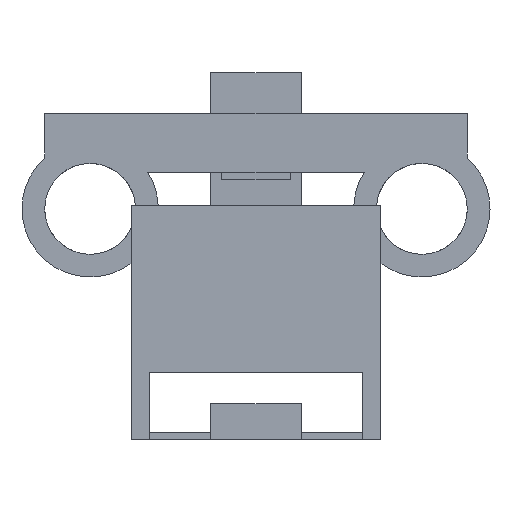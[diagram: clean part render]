
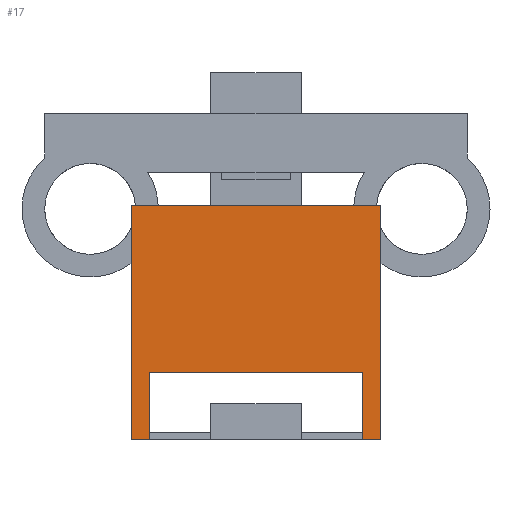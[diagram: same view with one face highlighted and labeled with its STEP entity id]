
A CAD part, left-side view. The second image highlights one B-rep face of the part: STEP entity #17.
In plain terms, the highlighted planar face has unit normal (-1, 0, 0).
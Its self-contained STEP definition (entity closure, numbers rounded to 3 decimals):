
#17 = ADVANCED_FACE('',(#18),#32,.F.);
#18 = FACE_BOUND('',#19,.F.);
#19 = EDGE_LOOP('',(#20,#55,#83,#111,#139,#167,#195,#218));
#20 = ORIENTED_EDGE('',*,*,#21,.F.);
#21 = EDGE_CURVE('',#22,#24,#26,.T.);
#22 = VERTEX_POINT('',#23);
#23 = CARTESIAN_POINT('',(32.5,-0.5,4.85));
#24 = VERTEX_POINT('',#25);
#25 = CARTESIAN_POINT('',(32.5,10.5,4.85));
#26 = SURFACE_CURVE('',#27,(#31,#43),.PCURVE_S1.);
#27 = LINE('',#28,#29);
#28 = CARTESIAN_POINT('',(32.5,-0.5,4.85));
#29 = VECTOR('',#30,1.);
#30 = DIRECTION('',(0.,1.,0.));
#31 = PCURVE('',#32,#37);
#32 = PLANE('',#33);
#33 = AXIS2_PLACEMENT_3D('',#34,#35,#36);
#34 = CARTESIAN_POINT('',(32.5,-0.5,-5.45));
#35 = DIRECTION('',(1.,0.,0.));
#36 = DIRECTION('',(0.,0.,1.));
#37 = DEFINITIONAL_REPRESENTATION('',(#38),#42);
#38 = LINE('',#39,#40);
#39 = CARTESIAN_POINT('',(10.3,0.));
#40 = VECTOR('',#41,1.);
#41 = DIRECTION('',(0.,-1.));
#42 = ( GEOMETRIC_REPRESENTATION_CONTEXT(2) 
PARAMETRIC_REPRESENTATION_CONTEXT() REPRESENTATION_CONTEXT('2D SPACE',''
  ) );
#43 = PCURVE('',#44,#49);
#44 = PLANE('',#45);
#45 = AXIS2_PLACEMENT_3D('',#46,#47,#48);
#46 = CARTESIAN_POINT('',(32.5,-0.5,4.85));
#47 = DIRECTION('',(0.,0.,1.));
#48 = DIRECTION('',(1.,0.,-0.));
#49 = DEFINITIONAL_REPRESENTATION('',(#50),#54);
#50 = LINE('',#51,#52);
#51 = CARTESIAN_POINT('',(0.,0.));
#52 = VECTOR('',#53,1.);
#53 = DIRECTION('',(0.,1.));
#54 = ( GEOMETRIC_REPRESENTATION_CONTEXT(2) 
PARAMETRIC_REPRESENTATION_CONTEXT() REPRESENTATION_CONTEXT('2D SPACE',''
  ) );
#55 = ORIENTED_EDGE('',*,*,#56,.F.);
#56 = EDGE_CURVE('',#57,#22,#59,.T.);
#57 = VERTEX_POINT('',#58);
#58 = CARTESIAN_POINT('',(32.5,-0.5,-5.45));
#59 = SURFACE_CURVE('',#60,(#64,#71),.PCURVE_S1.);
#60 = LINE('',#61,#62);
#61 = CARTESIAN_POINT('',(32.5,-0.5,-5.45));
#62 = VECTOR('',#63,1.);
#63 = DIRECTION('',(0.,0.,1.));
#64 = PCURVE('',#32,#65);
#65 = DEFINITIONAL_REPRESENTATION('',(#66),#70);
#66 = LINE('',#67,#68);
#67 = CARTESIAN_POINT('',(0.,0.));
#68 = VECTOR('',#69,1.);
#69 = DIRECTION('',(1.,0.));
#70 = ( GEOMETRIC_REPRESENTATION_CONTEXT(2) 
PARAMETRIC_REPRESENTATION_CONTEXT() REPRESENTATION_CONTEXT('2D SPACE',''
  ) );
#71 = PCURVE('',#72,#77);
#72 = PLANE('',#73);
#73 = AXIS2_PLACEMENT_3D('',#74,#75,#76);
#74 = CARTESIAN_POINT('',(32.5,-0.5,-5.45));
#75 = DIRECTION('',(0.,1.,0.));
#76 = DIRECTION('',(0.,-0.,1.));
#77 = DEFINITIONAL_REPRESENTATION('',(#78),#82);
#78 = LINE('',#79,#80);
#79 = CARTESIAN_POINT('',(0.,0.));
#80 = VECTOR('',#81,1.);
#81 = DIRECTION('',(1.,0.));
#82 = ( GEOMETRIC_REPRESENTATION_CONTEXT(2) 
PARAMETRIC_REPRESENTATION_CONTEXT() REPRESENTATION_CONTEXT('2D SPACE',''
  ) );
#83 = ORIENTED_EDGE('',*,*,#84,.T.);
#84 = EDGE_CURVE('',#57,#85,#87,.T.);
#85 = VERTEX_POINT('',#86);
#86 = CARTESIAN_POINT('',(32.5,0.3,-5.45));
#87 = SURFACE_CURVE('',#88,(#92,#99),.PCURVE_S1.);
#88 = LINE('',#89,#90);
#89 = CARTESIAN_POINT('',(32.5,-0.5,-5.45));
#90 = VECTOR('',#91,1.);
#91 = DIRECTION('',(0.,1.,0.));
#92 = PCURVE('',#32,#93);
#93 = DEFINITIONAL_REPRESENTATION('',(#94),#98);
#94 = LINE('',#95,#96);
#95 = CARTESIAN_POINT('',(0.,0.));
#96 = VECTOR('',#97,1.);
#97 = DIRECTION('',(0.,-1.));
#98 = ( GEOMETRIC_REPRESENTATION_CONTEXT(2) 
PARAMETRIC_REPRESENTATION_CONTEXT() REPRESENTATION_CONTEXT('2D SPACE',''
  ) );
#99 = PCURVE('',#100,#105);
#100 = PLANE('',#101);
#101 = AXIS2_PLACEMENT_3D('',#102,#103,#104);
#102 = CARTESIAN_POINT('',(32.5,-0.5,-5.45));
#103 = DIRECTION('',(0.,0.,1.));
#104 = DIRECTION('',(1.,0.,-0.));
#105 = DEFINITIONAL_REPRESENTATION('',(#106),#110);
#106 = LINE('',#107,#108);
#107 = CARTESIAN_POINT('',(0.,0.));
#108 = VECTOR('',#109,1.);
#109 = DIRECTION('',(0.,1.));
#110 = ( GEOMETRIC_REPRESENTATION_CONTEXT(2) 
PARAMETRIC_REPRESENTATION_CONTEXT() REPRESENTATION_CONTEXT('2D SPACE',''
  ) );
#111 = ORIENTED_EDGE('',*,*,#112,.T.);
#112 = EDGE_CURVE('',#85,#113,#115,.T.);
#113 = VERTEX_POINT('',#114);
#114 = CARTESIAN_POINT('',(32.5,0.3,-2.5));
#115 = SURFACE_CURVE('',#116,(#120,#127),.PCURVE_S1.);
#116 = LINE('',#117,#118);
#117 = CARTESIAN_POINT('',(32.5,0.3,-6.475));
#118 = VECTOR('',#119,1.);
#119 = DIRECTION('',(0.,0.,1.));
#120 = PCURVE('',#32,#121);
#121 = DEFINITIONAL_REPRESENTATION('',(#122),#126);
#122 = LINE('',#123,#124);
#123 = CARTESIAN_POINT('',(-1.025,-0.8));
#124 = VECTOR('',#125,1.);
#125 = DIRECTION('',(1.,0.));
#126 = ( GEOMETRIC_REPRESENTATION_CONTEXT(2) 
PARAMETRIC_REPRESENTATION_CONTEXT() REPRESENTATION_CONTEXT('2D SPACE',''
  ) );
#127 = PCURVE('',#128,#133);
#128 = PLANE('',#129);
#129 = AXIS2_PLACEMENT_3D('',#130,#131,#132);
#130 = CARTESIAN_POINT('',(32.,0.3,-7.5));
#131 = DIRECTION('',(0.,1.,0.));
#132 = DIRECTION('',(0.,-0.,1.));
#133 = DEFINITIONAL_REPRESENTATION('',(#134),#138);
#134 = LINE('',#135,#136);
#135 = CARTESIAN_POINT('',(1.025,0.5));
#136 = VECTOR('',#137,1.);
#137 = DIRECTION('',(1.,0.));
#138 = ( GEOMETRIC_REPRESENTATION_CONTEXT(2) 
PARAMETRIC_REPRESENTATION_CONTEXT() REPRESENTATION_CONTEXT('2D SPACE',''
  ) );
#139 = ORIENTED_EDGE('',*,*,#140,.F.);
#140 = EDGE_CURVE('',#141,#113,#143,.T.);
#141 = VERTEX_POINT('',#142);
#142 = CARTESIAN_POINT('',(32.5,9.7,-2.5));
#143 = SURFACE_CURVE('',#144,(#148,#155),.PCURVE_S1.);
#144 = LINE('',#145,#146);
#145 = CARTESIAN_POINT('',(32.5,-0.1,-2.5));
#146 = VECTOR('',#147,1.);
#147 = DIRECTION('',(0.,-1.,0.));
#148 = PCURVE('',#32,#149);
#149 = DEFINITIONAL_REPRESENTATION('',(#150),#154);
#150 = LINE('',#151,#152);
#151 = CARTESIAN_POINT('',(2.95,-0.4));
#152 = VECTOR('',#153,1.);
#153 = DIRECTION('',(0.,1.));
#154 = ( GEOMETRIC_REPRESENTATION_CONTEXT(2) 
PARAMETRIC_REPRESENTATION_CONTEXT() REPRESENTATION_CONTEXT('2D SPACE',''
  ) );
#155 = PCURVE('',#156,#161);
#156 = PLANE('',#157);
#157 = AXIS2_PLACEMENT_3D('',#158,#159,#160);
#158 = CARTESIAN_POINT('',(32.,0.3,-2.5));
#159 = DIRECTION('',(0.,0.,1.));
#160 = DIRECTION('',(1.,0.,-0.));
#161 = DEFINITIONAL_REPRESENTATION('',(#162),#166);
#162 = LINE('',#163,#164);
#163 = CARTESIAN_POINT('',(0.5,-0.4));
#164 = VECTOR('',#165,1.);
#165 = DIRECTION('',(0.,-1.));
#166 = ( GEOMETRIC_REPRESENTATION_CONTEXT(2) 
PARAMETRIC_REPRESENTATION_CONTEXT() REPRESENTATION_CONTEXT('2D SPACE',''
  ) );
#167 = ORIENTED_EDGE('',*,*,#168,.F.);
#168 = EDGE_CURVE('',#169,#141,#171,.T.);
#169 = VERTEX_POINT('',#170);
#170 = CARTESIAN_POINT('',(32.5,9.7,-5.45));
#171 = SURFACE_CURVE('',#172,(#176,#183),.PCURVE_S1.);
#172 = LINE('',#173,#174);
#173 = CARTESIAN_POINT('',(32.5,9.7,-6.475));
#174 = VECTOR('',#175,1.);
#175 = DIRECTION('',(0.,0.,1.));
#176 = PCURVE('',#32,#177);
#177 = DEFINITIONAL_REPRESENTATION('',(#178),#182);
#178 = LINE('',#179,#180);
#179 = CARTESIAN_POINT('',(-1.025,-10.2));
#180 = VECTOR('',#181,1.);
#181 = DIRECTION('',(1.,0.));
#182 = ( GEOMETRIC_REPRESENTATION_CONTEXT(2) 
PARAMETRIC_REPRESENTATION_CONTEXT() REPRESENTATION_CONTEXT('2D SPACE',''
  ) );
#183 = PCURVE('',#184,#189);
#184 = PLANE('',#185);
#185 = AXIS2_PLACEMENT_3D('',#186,#187,#188);
#186 = CARTESIAN_POINT('',(32.,9.7,-7.5));
#187 = DIRECTION('',(0.,1.,0.));
#188 = DIRECTION('',(0.,-0.,1.));
#189 = DEFINITIONAL_REPRESENTATION('',(#190),#194);
#190 = LINE('',#191,#192);
#191 = CARTESIAN_POINT('',(1.025,0.5));
#192 = VECTOR('',#193,1.);
#193 = DIRECTION('',(1.,0.));
#194 = ( GEOMETRIC_REPRESENTATION_CONTEXT(2) 
PARAMETRIC_REPRESENTATION_CONTEXT() REPRESENTATION_CONTEXT('2D SPACE',''
  ) );
#195 = ORIENTED_EDGE('',*,*,#196,.T.);
#196 = EDGE_CURVE('',#169,#197,#199,.T.);
#197 = VERTEX_POINT('',#198);
#198 = CARTESIAN_POINT('',(32.5,10.5,-5.45));
#199 = SURFACE_CURVE('',#200,(#204,#211),.PCURVE_S1.);
#200 = LINE('',#201,#202);
#201 = CARTESIAN_POINT('',(32.5,-0.5,-5.45));
#202 = VECTOR('',#203,1.);
#203 = DIRECTION('',(0.,1.,0.));
#204 = PCURVE('',#32,#205);
#205 = DEFINITIONAL_REPRESENTATION('',(#206),#210);
#206 = LINE('',#207,#208);
#207 = CARTESIAN_POINT('',(0.,0.));
#208 = VECTOR('',#209,1.);
#209 = DIRECTION('',(0.,-1.));
#210 = ( GEOMETRIC_REPRESENTATION_CONTEXT(2) 
PARAMETRIC_REPRESENTATION_CONTEXT() REPRESENTATION_CONTEXT('2D SPACE',''
  ) );
#211 = PCURVE('',#100,#212);
#212 = DEFINITIONAL_REPRESENTATION('',(#213),#217);
#213 = LINE('',#214,#215);
#214 = CARTESIAN_POINT('',(0.,0.));
#215 = VECTOR('',#216,1.);
#216 = DIRECTION('',(0.,1.));
#217 = ( GEOMETRIC_REPRESENTATION_CONTEXT(2) 
PARAMETRIC_REPRESENTATION_CONTEXT() REPRESENTATION_CONTEXT('2D SPACE',''
  ) );
#218 = ORIENTED_EDGE('',*,*,#219,.T.);
#219 = EDGE_CURVE('',#197,#24,#220,.T.);
#220 = SURFACE_CURVE('',#221,(#225,#232),.PCURVE_S1.);
#221 = LINE('',#222,#223);
#222 = CARTESIAN_POINT('',(32.5,10.5,-5.45));
#223 = VECTOR('',#224,1.);
#224 = DIRECTION('',(0.,0.,1.));
#225 = PCURVE('',#32,#226);
#226 = DEFINITIONAL_REPRESENTATION('',(#227),#231);
#227 = LINE('',#228,#229);
#228 = CARTESIAN_POINT('',(0.,-11.));
#229 = VECTOR('',#230,1.);
#230 = DIRECTION('',(1.,0.));
#231 = ( GEOMETRIC_REPRESENTATION_CONTEXT(2) 
PARAMETRIC_REPRESENTATION_CONTEXT() REPRESENTATION_CONTEXT('2D SPACE',''
  ) );
#232 = PCURVE('',#233,#238);
#233 = PLANE('',#234);
#234 = AXIS2_PLACEMENT_3D('',#235,#236,#237);
#235 = CARTESIAN_POINT('',(32.5,10.5,-5.45));
#236 = DIRECTION('',(0.,1.,0.));
#237 = DIRECTION('',(0.,-0.,1.));
#238 = DEFINITIONAL_REPRESENTATION('',(#239),#243);
#239 = LINE('',#240,#241);
#240 = CARTESIAN_POINT('',(0.,0.));
#241 = VECTOR('',#242,1.);
#242 = DIRECTION('',(1.,0.));
#243 = ( GEOMETRIC_REPRESENTATION_CONTEXT(2) 
PARAMETRIC_REPRESENTATION_CONTEXT() REPRESENTATION_CONTEXT('2D SPACE',''
  ) );
